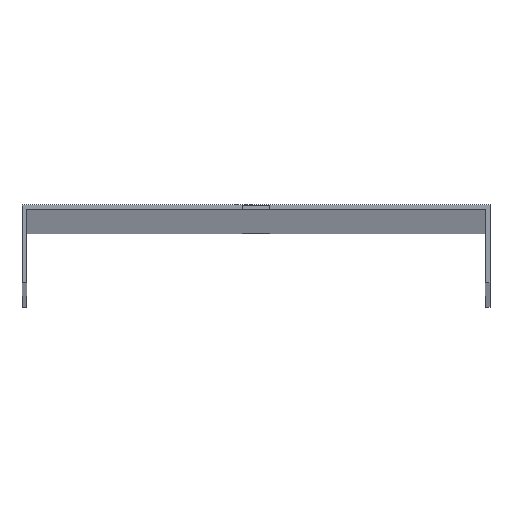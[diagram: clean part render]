
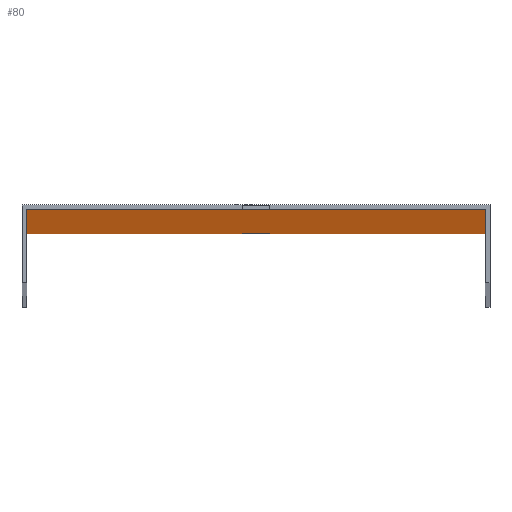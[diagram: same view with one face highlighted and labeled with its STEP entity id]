
A CAD part, top view. The second image highlights one B-rep face of the part: STEP entity #80.
In plain terms, the highlighted planar face has unit normal (0, -1, 0).
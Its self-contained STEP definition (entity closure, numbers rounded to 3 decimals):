
#9 = LINE ( 'NONE', #188, #565 ) ;
#11 = VERTEX_POINT ( 'NONE', #90 ) ;
#16 = EDGE_LOOP ( 'NONE', ( #226, #422, #507, #115 ) ) ;
#18 = VERTEX_POINT ( 'NONE', #49 ) ;
#22 = CARTESIAN_POINT ( 'NONE',  ( -3., -1., 1500. ) ) ;
#37 = CARTESIAN_POINT ( 'NONE',  ( 50., -1., 1500. ) ) ;
#38 = VECTOR ( 'NONE', #492, 1000. ) ;
#44 = DIRECTION ( 'NONE',  ( 0., 0., 1. ) ) ;
#49 = CARTESIAN_POINT ( 'NONE',  ( -50., -1., -1500. ) ) ;
#50 = VERTEX_POINT ( 'NONE', #445 ) ;
#61 = ORIENTED_EDGE ( 'NONE', *, *, #416, .F. ) ;
#79 = LINE ( 'NONE', #452, #38 ) ;
#80 = ADVANCED_FACE ( 'NONE', ( #534, #298, #527 ), #256, .T. ) ;
#86 = VERTEX_POINT ( 'NONE', #308 ) ;
#90 = CARTESIAN_POINT ( 'NONE',  ( -3., -1., 1481.5 ) ) ;
#94 = CARTESIAN_POINT ( 'NONE',  ( 3., -1., 1481.5 ) ) ;
#103 = ORIENTED_EDGE ( 'NONE', *, *, #324, .T. ) ;
#105 = VERTEX_POINT ( 'NONE', #215 ) ;
#112 = VECTOR ( 'NONE', #44, 1000. ) ;
#115 = ORIENTED_EDGE ( 'NONE', *, *, #475, .T. ) ;
#122 = EDGE_CURVE ( 'NONE', #318, #11, #153, .T. ) ;
#125 = VECTOR ( 'NONE', #183, 1000. ) ;
#129 = LINE ( 'NONE', #37, #591 ) ;
#130 = EDGE_CURVE ( 'NONE', #480, #199, #498, .T. ) ;
#144 = EDGE_CURVE ( 'NONE', #382, #86, #79, .T. ) ;
#151 = VECTOR ( 'NONE', #351, 1000. ) ;
#153 = LINE ( 'NONE', #22, #403 ) ;
#163 = CARTESIAN_POINT ( 'NONE',  ( -51., -1., 1500. ) ) ;
#167 = EDGE_CURVE ( 'NONE', #50, #327, #129, .T. ) ;
#173 = DIRECTION ( 'NONE',  ( 0., 0., -1. ) ) ;
#174 = EDGE_CURVE ( 'NONE', #105, #332, #494, .T. ) ;
#180 = VECTOR ( 'NONE', #520, 1000. ) ;
#182 = EDGE_CURVE ( 'NONE', #86, #318, #412, .T. ) ;
#183 = DIRECTION ( 'NONE',  ( 1., 0., 0. ) ) ;
#188 = CARTESIAN_POINT ( 'NONE',  ( -51., -1., -1500. ) ) ;
#191 = VECTOR ( 'NONE', #589, 1000. ) ;
#199 = VERTEX_POINT ( 'NONE', #365 ) ;
#200 = CARTESIAN_POINT ( 'NONE',  ( -51., -1., 1481.5 ) ) ;
#206 = DIRECTION ( 'NONE',  ( 0., 0., -1. ) ) ;
#210 = EDGE_LOOP ( 'NONE', ( #103, #468, #283, #279 ) ) ;
#214 = CARTESIAN_POINT ( 'NONE',  ( 3., -1., -1481.5 ) ) ;
#215 = CARTESIAN_POINT ( 'NONE',  ( -3., -1., -1488.5 ) ) ;
#220 = VECTOR ( 'NONE', #297, 1000. ) ;
#226 = ORIENTED_EDGE ( 'NONE', *, *, #383, .F. ) ;
#240 = CARTESIAN_POINT ( 'NONE',  ( -50., -1., 1500. ) ) ;
#246 = VECTOR ( 'NONE', #173, 1000. ) ;
#256 = PLANE ( 'NONE',  #320 ) ;
#267 = CARTESIAN_POINT ( 'NONE',  ( -51., -1., 1488.5 ) ) ;
#279 = ORIENTED_EDGE ( 'NONE', *, *, #130, .T. ) ;
#283 = ORIENTED_EDGE ( 'NONE', *, *, #311, .T. ) ;
#286 = CARTESIAN_POINT ( 'NONE',  ( -3., -1., 1488.5 ) ) ;
#293 = ORIENTED_EDGE ( 'NONE', *, *, #144, .F. ) ;
#297 = DIRECTION ( 'NONE',  ( -1., 0., 0. ) ) ;
#298 = FACE_OUTER_BOUND ( 'NONE', #16, .T. ) ;
#301 = LINE ( 'NONE', #200, #151 ) ;
#304 = ORIENTED_EDGE ( 'NONE', *, *, #182, .F. ) ;
#307 = LINE ( 'NONE', #526, #180 ) ;
#308 = CARTESIAN_POINT ( 'NONE',  ( 3., -1., 1488.5 ) ) ;
#311 = EDGE_CURVE ( 'NONE', #332, #480, #555, .T. ) ;
#316 = DIRECTION ( 'NONE',  ( 0., 0., -1. ) ) ;
#318 = VERTEX_POINT ( 'NONE', #286 ) ;
#320 = AXIS2_PLACEMENT_3D ( 'NONE', #571, #339, #474 ) ;
#324 = EDGE_CURVE ( 'NONE', #199, #105, #423, .T. ) ;
#327 = VERTEX_POINT ( 'NONE', #331 ) ;
#331 = CARTESIAN_POINT ( 'NONE',  ( 50., -1., -1500. ) ) ;
#332 = VERTEX_POINT ( 'NONE', #513 ) ;
#334 = CARTESIAN_POINT ( 'NONE',  ( -51., -1., -1488.5 ) ) ;
#339 = DIRECTION ( 'NONE',  ( 0., -1., 0. ) ) ;
#340 = VERTEX_POINT ( 'NONE', #240 ) ;
#349 = LINE ( 'NONE', #163, #220 ) ;
#351 = DIRECTION ( 'NONE',  ( 1., 0., 0. ) ) ;
#356 = CARTESIAN_POINT ( 'NONE',  ( 3., -1., 1500. ) ) ;
#365 = CARTESIAN_POINT ( 'NONE',  ( 3., -1., -1488.5 ) ) ;
#382 = VERTEX_POINT ( 'NONE', #94 ) ;
#383 = EDGE_CURVE ( 'NONE', #327, #18, #9, .T. ) ;
#392 = DIRECTION ( 'NONE',  ( -1., 0., 0. ) ) ;
#403 = VECTOR ( 'NONE', #206, 1000. ) ;
#412 = LINE ( 'NONE', #267, #191 ) ;
#415 = EDGE_CURVE ( 'NONE', #50, #340, #349, .T. ) ;
#416 = EDGE_CURVE ( 'NONE', #11, #382, #301, .T. ) ;
#417 = CARTESIAN_POINT ( 'NONE',  ( -51., -1., -1481.5 ) ) ;
#420 = EDGE_LOOP ( 'NONE', ( #470, #304, #293, #61 ) ) ;
#422 = ORIENTED_EDGE ( 'NONE', *, *, #167, .F. ) ;
#423 = LINE ( 'NONE', #334, #424 ) ;
#424 = VECTOR ( 'NONE', #552, 1000. ) ;
#445 = CARTESIAN_POINT ( 'NONE',  ( 50., -1., 1500. ) ) ;
#452 = CARTESIAN_POINT ( 'NONE',  ( 3., -1., 1500. ) ) ;
#468 = ORIENTED_EDGE ( 'NONE', *, *, #174, .T. ) ;
#470 = ORIENTED_EDGE ( 'NONE', *, *, #122, .F. ) ;
#474 = DIRECTION ( 'NONE',  ( 0., 0., -1. ) ) ;
#475 = EDGE_CURVE ( 'NONE', #340, #18, #307, .T. ) ;
#480 = VERTEX_POINT ( 'NONE', #214 ) ;
#492 = DIRECTION ( 'NONE',  ( 0., 0., 1. ) ) ;
#494 = LINE ( 'NONE', #496, #112 ) ;
#496 = CARTESIAN_POINT ( 'NONE',  ( -3., -1., 1500. ) ) ;
#498 = LINE ( 'NONE', #356, #246 ) ;
#507 = ORIENTED_EDGE ( 'NONE', *, *, #415, .T. ) ;
#513 = CARTESIAN_POINT ( 'NONE',  ( -3., -1., -1481.5 ) ) ;
#520 = DIRECTION ( 'NONE',  ( 0., 0., -1. ) ) ;
#526 = CARTESIAN_POINT ( 'NONE',  ( -50., -1., 1500. ) ) ;
#527 = FACE_BOUND ( 'NONE', #210, .T. ) ;
#534 = FACE_BOUND ( 'NONE', #420, .T. ) ;
#552 = DIRECTION ( 'NONE',  ( -1., 0., 0. ) ) ;
#555 = LINE ( 'NONE', #417, #125 ) ;
#565 = VECTOR ( 'NONE', #392, 1000. ) ;
#571 = CARTESIAN_POINT ( 'NONE',  ( -51., -1., 1500. ) ) ;
#589 = DIRECTION ( 'NONE',  ( -1., 0., 0. ) ) ;
#591 = VECTOR ( 'NONE', #316, 1000. ) ;
